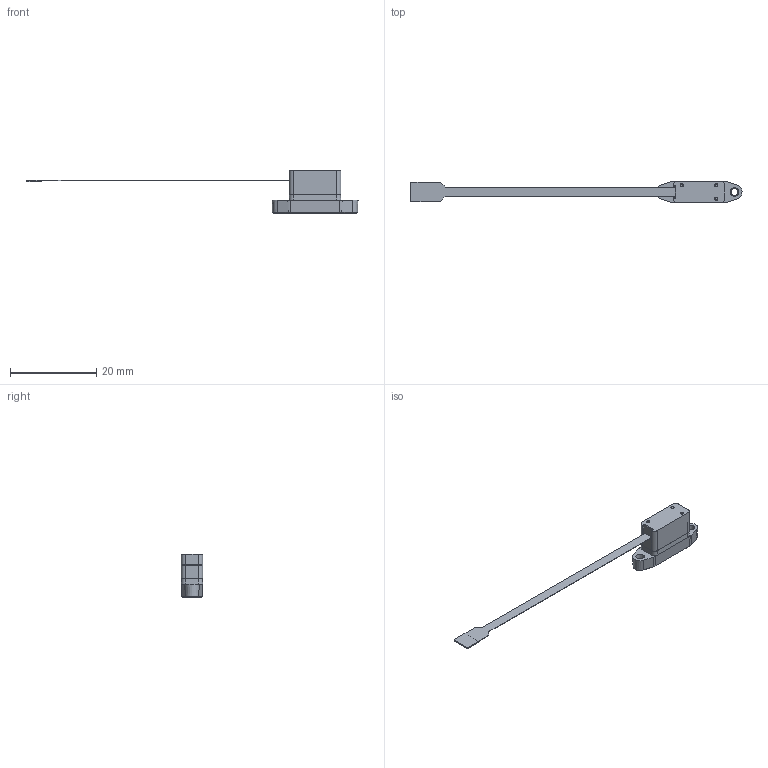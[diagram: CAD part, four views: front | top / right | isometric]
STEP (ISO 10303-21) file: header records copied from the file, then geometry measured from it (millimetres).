
FILE_DESCRIPTION(/* description */ (''),/* implementation_level */ '2;1');
FILE_NAME(/* name */ 'MVL-22-Bi (flex) Version 11-2023 v3.step',/* time_stamp */ '2023-12-01T14:21:18+01:00',/* author */ (''),/* organization */ (''),/* preprocessor_version */ 'ST-DEVELOPER v20',/* originating_system */ 'Autodesk Translation Framework v12.14.0.127',/* authorisation */ '');
FILE_SCHEMA (('AUTOMOTIVE_DESIGN { 1 0 10303 214 3 1 1 }'));
Length unit declared in the file: millimetre
Products named in the file (3): MVL-22-Bi (flex) Version 11-2023; 03_Fluidteil_var v27; 08_08_o_ring v2
Assembly tree (3 placements, depth 2):
  MVL-22-Bi (flex) Version 11-2023
    03_Fluidteil_var v27
    08_08_o_ring v2  x2
Bounding box: 77.16 x 5 x 10.2 mm (x, y, z)
Volume: 657.6 mm3; surface area: 1134.5 mm2
Topology: 4 solids, 4 shells, 232 faces, 550 edges, 343 vertices
Faces by surface type: plane 91, cone 61, bspline 42, cylinder 24, torus 14
Full cylindrical faces by diameter (mm): 0.75 x7
Entity records: 8125 total; most frequent: CARTESIAN_POINT 2804, ORIENTED_EDGE 1096, DIRECTION 1059, EDGE_CURVE 548, AXIS2_PLACEMENT_3D 405, VERTEX_POINT 342, EDGE_LOOP 256, LINE 249
